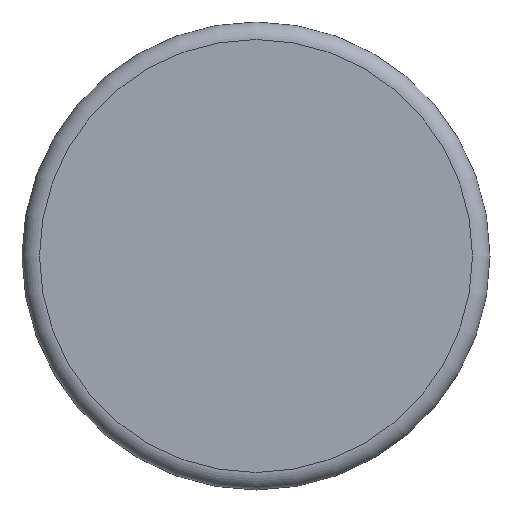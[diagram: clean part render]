
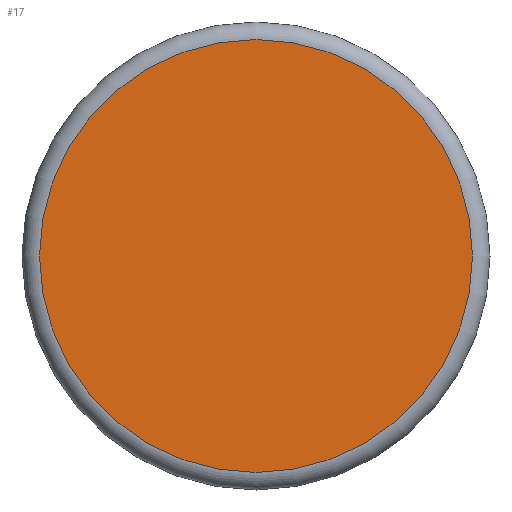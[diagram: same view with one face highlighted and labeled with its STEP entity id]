
A CAD part, front view. The second image highlights one B-rep face of the part: STEP entity #17.
In plain terms, the highlighted planar face has unit normal (0, -1, 0).
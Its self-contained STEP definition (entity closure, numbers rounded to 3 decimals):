
#17 = ADVANCED_FACE('',(#18),#29,.F.);
#18 = FACE_BOUND('',#19,.T.);
#19 = EDGE_LOOP('',(#20));
#20 = ORIENTED_EDGE('',*,*,#21,.F.);
#21 = EDGE_CURVE('',#22,#22,#24,.T.);
#22 = VERTEX_POINT('',#23);
#23 = CARTESIAN_POINT('',(1.85,-2.3,0.));
#24 = CIRCLE('',#25,1.85);
#25 = AXIS2_PLACEMENT_3D('',#26,#27,#28);
#26 = CARTESIAN_POINT('',(0.,-2.3,0.));
#27 = DIRECTION('',(-0.,1.,0.));
#28 = DIRECTION('',(1.,0.,0.));
#29 = PLANE('',#30);
#30 = AXIS2_PLACEMENT_3D('',#31,#32,#33);
#31 = CARTESIAN_POINT('',(0.,-2.3,0.));
#32 = DIRECTION('',(0.,1.,0.));
#33 = DIRECTION('',(1.,0.,0.));
